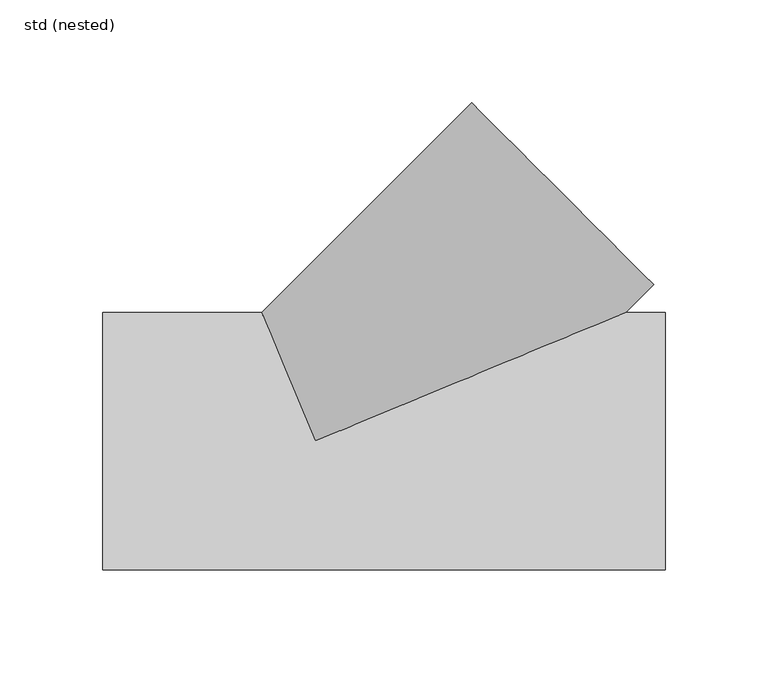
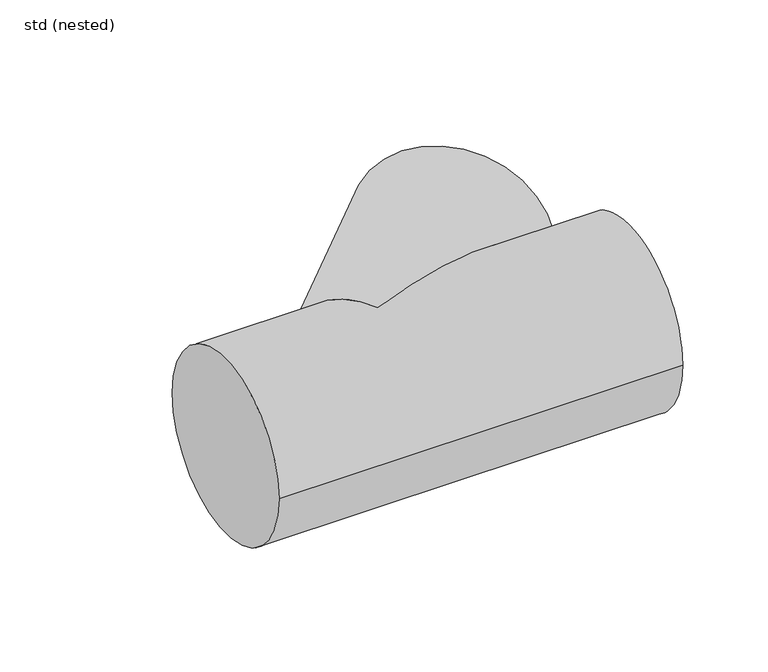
"""IFC4 building model written with IfcOpenShell, lengths in millimetres: pipe fitting geometry, ZZZ_do not use_PIF_ST_UN_ACO pipe branch_ACO : std (nested)."""

from ifc_helpers import new_model, si_unit, frame, origin, place, context, project, spatial, circle_curve, ellipse_curve, source, transform, mapped, element, save
from ifc_brep_helpers import plane_surface, cylinder_surface, advanced_brep


def std_nested_25d1e1bf(model_context):
    return source(origin(), model_context, "Body", "AdvancedBrep", [
        advanced_brep(
        [(170.0, -62.5, 0.0), (170.0, 62.5, 0.0), (-103.0, -62.5, 0.0), (-103.0, 62.5, 0.0), (-25.8849362, 62.5, 0.0), (0.0, 0.0, -62.5), (150.9082337, 62.5, 0.0), (0.0, 0.0, 62.5), (164.409409, 75.9986594, 0.0), (76.0292979, 164.3952428, 0.0)],
        [
            (0, 1, circle_curve(frame((170.0, 0.0, 0.0), z_axis=(1.0, 0.0, 0.0), x_axis=(0.0, 1.0, 0.0)), 62.5)),
            (1, 0, circle_curve(frame((170.0, 0.0, 0.0), z_axis=(1.0, 0.0, 0.0), x_axis=(0.0, 1.0, 0.0)), 62.5)),
            (2, 3, circle_curve(frame((-103.0, 0.0, 0.0), z_axis=(-1.0, 0.0, 0.0), x_axis=(0.0, 1.0, 0.0)), 62.5)),
            (3, 2, circle_curve(frame((-103.0, 0.0, 0.0), z_axis=(-1.0, 0.0, 0.0), x_axis=(0.0, 1.0, 0.0)), 62.5)),
            (0, 2),
            (3, 4),
            (4, 5, ellipse_curve(frame((0.0, 0.0, 0.0), z_axis=(-0.9238973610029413, -0.3826403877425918, 0.0), x_axis=(0.3826403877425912, -0.9238973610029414, 0.0)), 67.6482071, 62.5)),
            (5, 6, ellipse_curve(frame((0.0, 0.0, 0.0), z_axis=(0.38264038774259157, -0.9238973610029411, 0.0), x_axis=(0.9238973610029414, 0.38264038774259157, 0.0)), 163.3387431, 62.5)),
            (6, 1),
            (6, 7, ellipse_curve(frame((0.0, 0.0, 0.0), z_axis=(0.38264038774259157, -0.9238973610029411, 0.0), x_axis=(0.9238973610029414, 0.38264038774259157, 0.0)), 163.3387431, 62.5)),
            (7, 4, ellipse_curve(frame((0.0, 0.0, 0.0), z_axis=(-0.9238973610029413, -0.3826403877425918, 0.0), x_axis=(0.3826403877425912, -0.9238973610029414, 0.0)), 67.6482071, 62.5)),
            (8, 9, circle_curve(frame((120.2193534, 120.1969511, 0.0), z_axis=(0.7071726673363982, 0.7070408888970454, 0.0), x_axis=(-0.7070408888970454, 0.7071726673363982, 0.0)), 62.5)),
            (9, 8, circle_curve(frame((120.2193534, 120.1969511, 0.0), z_axis=(0.7071726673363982, 0.7070408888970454, 0.0), x_axis=(-0.7070408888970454, 0.7071726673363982, 0.0)), 62.5)),
            (9, 4),
            (6, 8),
        ],
        [
            plane_surface(frame((170.0, 62.5, 0.0), z_axis=(1.0, 0.0, 0.0), x_axis=(0.0, 0.0, 1.0))),
            plane_surface(frame((-103.0, 62.5, 0.0), z_axis=(-1.0, 0.0, 0.0), x_axis=(0.0, 0.0, -1.0))),
            cylinder_surface(frame((-103.0, 0.0, 0.0), z_axis=(1.0, 0.0, 0.0), x_axis=(0.0, 1.0, 0.0)), 62.5),
            plane_surface(frame((120.2193534, 120.1969511, 0.0), z_axis=(0.7071726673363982, 0.7070408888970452, 0.0), x_axis=(0.0, 0.0, 1.0))),
            cylinder_surface(frame((0.0, 0.0, 0.0), z_axis=(-0.7071726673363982, -0.7070408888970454, 0.0), x_axis=(-0.7070408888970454, 0.7071726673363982, 0.0)), 62.5),
        ],
        [
            (0, [[1, 2]]),
            (1, [[3, 4]]),
            (2, [[-1, 5, -4, 6, 7, 8, 9]]),
            (2, [[-2, -9, 10, 11, -6, -3, -5]]),
            (3, [[12, 13]]),
            (4, [[-13, 14, -11, -10, 15]]),
            (4, [[-12, -15, -8, -7, -14]]),
        ],
    ),
    ])


if __name__ == "__main__":
    model = new_model("IFC4")
    model_context = context("Model", 3, world=origin())
    ifc_project = project(units=[si_unit("LENGTHUNIT", "METRE", prefix="MILLI")], contexts=[model_context])
    site = spatial("IfcSite", under=ifc_project)
    building = spatial("IfcBuilding", under=site)
    placement = place(None, origin())
    std_nested_shape = std_nested_25d1e1bf(model_context)
    element("IfcPipeFitting", 1, ObjectType="ZZZ_do not use_PIF_ST_UN_ACO pipe branch_ACO : std (nested)", at=placement, inside=building, context=model_context, shape_type="MappedRepresentation", body=[
        mapped(std_nested_shape, transform((0.0, 0.0, 0.0), x_axis=(1.0, 0.0, 0.0), y_axis=(0.0, 1.0, 0.0), z_axis=(0.0, 0.0, 1.0))),
    ])
    save(model, "model.ifc")
